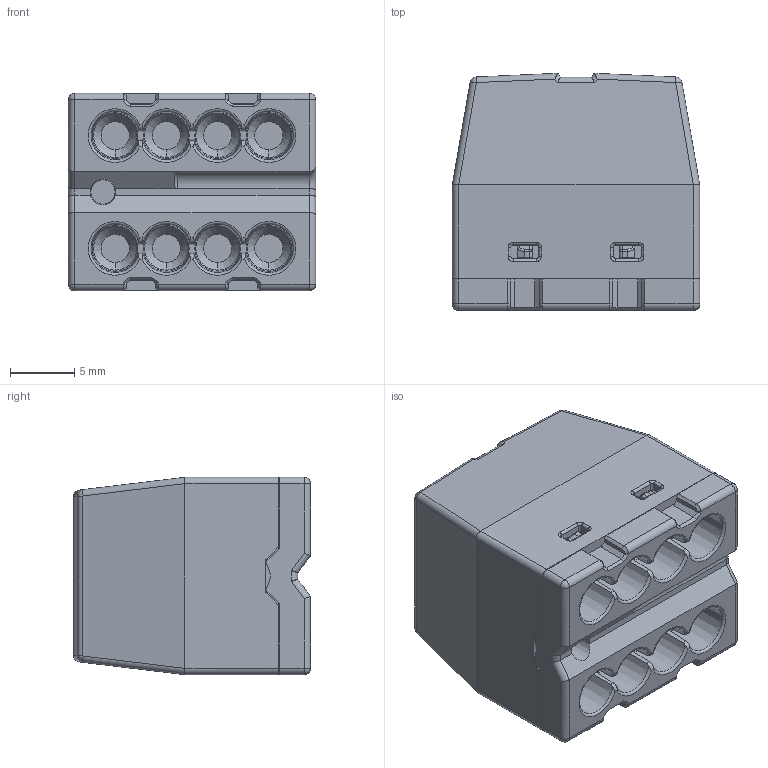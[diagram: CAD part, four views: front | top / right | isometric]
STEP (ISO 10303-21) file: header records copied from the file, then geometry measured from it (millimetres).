
FILE_DESCRIPTION(('Creo Elements/Direct Modeling STEP Export'),'2;1');
FILE_NAME('OK-8W.stp','2014-09-02T11:10:19',(''),(''),'Creo Elements/Direct Modeling STEP processor for AP214 (Solid Model)','Creo Elements/Direct Modeling 18.1B 29-Sep-2012 (C) Parametric Technology GmbH','');
FILE_SCHEMA(('AUTOMOTIVE_DESIGN { 1 0 10303 214 1 1 1 1 }'));
Length unit declared in the file: millimetre
Products named in the file (2): OK-8W; H08-0008-CE901_OK-8W
Assembly tree (1 placements, depth 2):
  H08-0008-CE901_OK-8W
    OK-8W
Bounding box: 19.3 x 18.5 x 15.4 mm (x, y, z)
Volume: 4391.7 mm3; surface area: 3134.5 mm2
Topology: 1 solids, 1 shells, 423 faces, 1118 edges, 693 vertices
Faces by surface type: plane 179, cylinder 148, torus 38, cone 38, sphere 12, bspline 8
Entity records: 15100 total; most frequent: CARTESIAN_POINT 4090, ORIENTED_EDGE 2212, DIRECTION 1941, EDGE_CURVE 1106, VERTEX_POINT 693, AXIS2_PLACEMENT_3D 680, VECTOR 581, LINE 581
